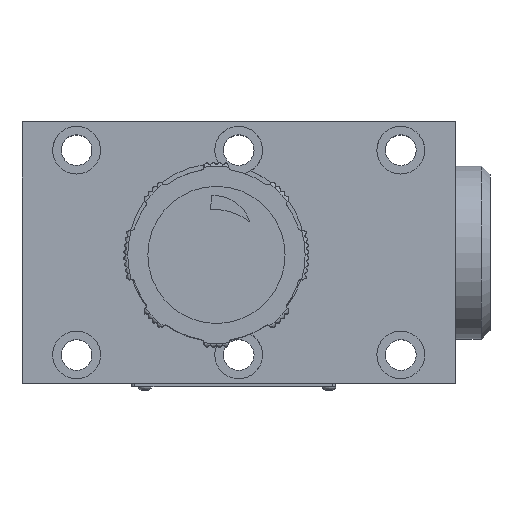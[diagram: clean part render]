
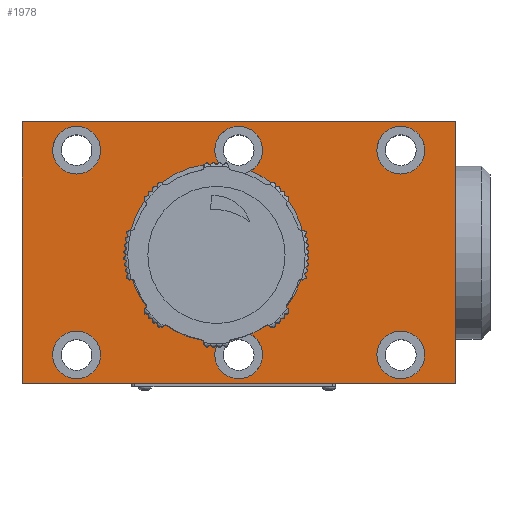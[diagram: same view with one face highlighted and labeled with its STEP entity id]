
A CAD part, top view. The second image highlights one B-rep face of the part: STEP entity #1978.
In plain terms, the highlighted planar face has unit normal (0, 0, 1).
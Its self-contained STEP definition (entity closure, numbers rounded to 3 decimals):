
#284=LINE('',#12793,#730);
#285=LINE('',#12796,#731);
#286=LINE('',#12798,#732);
#287=LINE('',#12800,#733);
#730=VECTOR('',#7532,1.);
#731=VECTOR('',#7533,1.);
#732=VECTOR('',#7534,1.);
#733=VECTOR('',#7535,1.);
#1626=PLANE('',#6800);
#1978=ADVANCED_FACE('',(#2362,#2363,#2364,#2365,#2366,#2367),#1626,.T.);
#2362=FACE_BOUND('',#2585,.T.);
#2363=FACE_BOUND('',#2586,.T.);
#2364=FACE_BOUND('',#2587,.T.);
#2365=FACE_BOUND('',#2588,.T.);
#2366=FACE_BOUND('',#2589,.T.);
#2367=FACE_BOUND('',#2590,.T.);
#2585=EDGE_LOOP('',(#3135,#3136,#3137,#3138));
#2586=EDGE_LOOP('',(#3139));
#2587=EDGE_LOOP('',(#3140));
#2588=EDGE_LOOP('',(#3141));
#2589=EDGE_LOOP('',(#3142,#3143,#3144,#3145));
#2590=EDGE_LOOP('',(#3146));
#3135=ORIENTED_EDGE('',*,*,#5598,.F.);
#3136=ORIENTED_EDGE('',*,*,#5599,.T.);
#3137=ORIENTED_EDGE('',*,*,#5600,.F.);
#3138=ORIENTED_EDGE('',*,*,#5601,.T.);
#3139=ORIENTED_EDGE('',*,*,#5602,.T.);
#3140=ORIENTED_EDGE('',*,*,#5603,.T.);
#3141=ORIENTED_EDGE('',*,*,#5604,.T.);
#3142=ORIENTED_EDGE('',*,*,#5605,.F.);
#3143=ORIENTED_EDGE('',*,*,#5606,.F.);
#3144=ORIENTED_EDGE('',*,*,#5607,.F.);
#3145=ORIENTED_EDGE('',*,*,#5608,.F.);
#3146=ORIENTED_EDGE('',*,*,#5609,.T.);
#4933=VERTEX_POINT('',#12780);
#4934=VERTEX_POINT('',#12781);
#4935=VERTEX_POINT('',#12783);
#4936=VERTEX_POINT('',#12785);
#4937=VERTEX_POINT('',#12788);
#4938=VERTEX_POINT('',#12790);
#4939=VERTEX_POINT('',#12792);
#4940=VERTEX_POINT('',#12794);
#4941=VERTEX_POINT('',#12795);
#4942=VERTEX_POINT('',#12797);
#4943=VERTEX_POINT('',#12799);
#4944=VERTEX_POINT('',#12802);
#5598=EDGE_CURVE('',#4933,#4934,#6489,.T.);
#5599=EDGE_CURVE('',#4933,#4935,#6490,.T.);
#5600=EDGE_CURVE('',#4936,#4935,#6491,.T.);
#5601=EDGE_CURVE('',#4936,#4934,#6492,.T.);
#5602=EDGE_CURVE('',#4937,#4937,#6493,.T.);
#5603=EDGE_CURVE('',#4938,#4938,#6494,.T.);
#5604=EDGE_CURVE('',#4939,#4939,#6495,.T.);
#5605=EDGE_CURVE('',#4940,#4941,#284,.T.);
#5606=EDGE_CURVE('',#4942,#4940,#285,.T.);
#5607=EDGE_CURVE('',#4943,#4942,#286,.T.);
#5608=EDGE_CURVE('',#4941,#4943,#287,.T.);
#5609=EDGE_CURVE('',#4944,#4944,#6496,.T.);
#6489=CIRCLE('',#6792,26.);
#6490=CIRCLE('',#6793,7.);
#6491=CIRCLE('',#6794,26.);
#6492=CIRCLE('',#6795,7.);
#6493=CIRCLE('',#6796,7.);
#6494=CIRCLE('',#6797,7.);
#6495=CIRCLE('',#6798,7.);
#6496=CIRCLE('',#6799,7.);
#6792=AXIS2_PLACEMENT_3D('',#12779,#7518,#7519);
#6793=AXIS2_PLACEMENT_3D('',#12782,#7520,#7521);
#6794=AXIS2_PLACEMENT_3D('',#12784,#7522,#7523);
#6795=AXIS2_PLACEMENT_3D('',#12786,#7524,#7525);
#6796=AXIS2_PLACEMENT_3D('',#12787,#7526,#7527);
#6797=AXIS2_PLACEMENT_3D('',#12789,#7528,#7529);
#6798=AXIS2_PLACEMENT_3D('',#12791,#7530,#7531);
#6799=AXIS2_PLACEMENT_3D('',#12801,#7536,#7537);
#6800=AXIS2_PLACEMENT_3D('',#12803,#7538,#7539);
#7518=DIRECTION('',(0.,0.,1.));
#7519=DIRECTION('',(1.,0.,0.));
#7520=DIRECTION('',(0.,0.,-1.));
#7521=DIRECTION('',(1.,0.,0.));
#7522=DIRECTION('',(0.,0.,1.));
#7523=DIRECTION('',(1.,0.,0.));
#7524=DIRECTION('',(0.,0.,-1.));
#7525=DIRECTION('',(1.,0.,0.));
#7526=DIRECTION('',(0.,0.,-1.));
#7527=DIRECTION('',(1.,0.,0.));
#7528=DIRECTION('',(0.,0.,-1.));
#7529=DIRECTION('',(1.,0.,0.));
#7530=DIRECTION('',(0.,0.,-1.));
#7531=DIRECTION('',(1.,0.,0.));
#7532=DIRECTION('',(0.,1.,0.));
#7533=DIRECTION('',(-1.,0.,0.));
#7534=DIRECTION('',(0.,-1.,0.));
#7535=DIRECTION('',(1.,0.,0.));
#7536=DIRECTION('',(0.,0.,-1.));
#7537=DIRECTION('',(1.,0.,0.));
#7538=DIRECTION('',(0.,0.,1.));
#7539=DIRECTION('',(-1.,0.,0.));
#12779=CARTESIAN_POINT('',(-89.078,69.476,45.));
#12780=CARTESIAN_POINT('',(-88.317,95.465,45.));
#12781=CARTESIAN_POINT('',(-88.314,43.487,45.));
#12782=CARTESIAN_POINT('',(-82.578,99.474,45.));
#12783=CARTESIAN_POINT('',(-79.014,93.449,45.));
#12784=CARTESIAN_POINT('',(-89.078,69.476,45.));
#12785=CARTESIAN_POINT('',(-79.019,45.501,45.));
#12786=CARTESIAN_POINT('',(-82.578,39.474,45.));
#12787=CARTESIAN_POINT('',(-35.076,99.474,45.));
#12788=CARTESIAN_POINT('',(-28.076,99.474,45.));
#12789=CARTESIAN_POINT('',(-130.078,99.474,45.));
#12790=CARTESIAN_POINT('',(-123.078,99.474,45.));
#12791=CARTESIAN_POINT('',(-130.078,39.474,45.));
#12792=CARTESIAN_POINT('',(-123.078,39.474,45.));
#12793=CARTESIAN_POINT('',(-146.078,31.225,45.));
#12794=CARTESIAN_POINT('',(-146.078,31.225,45.));
#12795=CARTESIAN_POINT('',(-146.078,107.727,45.));
#12796=CARTESIAN_POINT('',(-19.078,31.225,45.));
#12797=CARTESIAN_POINT('',(-19.078,31.225,45.));
#12798=CARTESIAN_POINT('',(-19.078,107.727,45.));
#12799=CARTESIAN_POINT('',(-19.078,107.727,45.));
#12800=CARTESIAN_POINT('',(-146.078,107.727,45.));
#12801=CARTESIAN_POINT('',(-35.076,39.474,45.));
#12802=CARTESIAN_POINT('',(-28.076,39.474,45.));
#12803=CARTESIAN_POINT('',(-35.076,39.474,45.));
